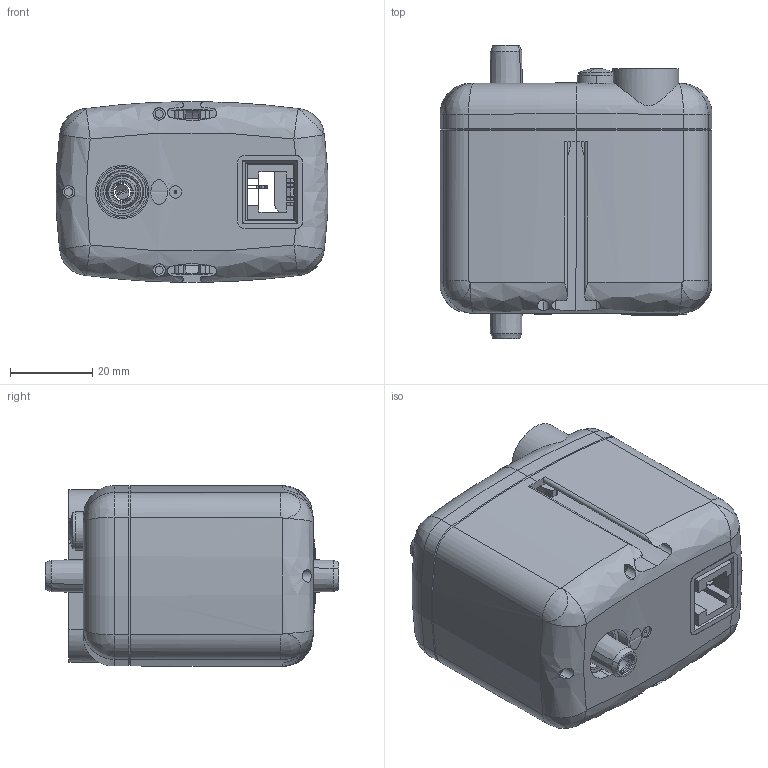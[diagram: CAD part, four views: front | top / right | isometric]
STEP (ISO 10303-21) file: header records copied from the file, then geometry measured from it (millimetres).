
FILE_DESCRIPTION (( 'STEP AP214' ), '1' );
FILE_NAME ('Sauermann_SI30UN23.STEP', '2021-04-08T14:47:30', ( '' ), ( '' ), 'SwSTEP 2.0', 'SolidWorks 2020', '' );
FILE_SCHEMA (( 'AUTOMOTIVE_DESIGN' ));
Length unit declared in the file: millimetre
Products named in the file (1): Sauermann_SI30UN23
Bounding box: 66.18 x 71.4 x 44 mm (x, y, z)
Surface area: 28916 mm2 (no closed solid volume)
Topology: 0 solids, 27 shells, 332 faces, 1488 edges, 1172 vertices
Faces by surface type: plane 144, cylinder 111, cone 32, torus 25, bspline 20
Entity records: 21892 total; most frequent: CARTESIAN_POINT 6250, DIRECTION 2513, ORIENTED_EDGE 2164, EDGE_CURVE 1482, VERTEX_POINT 1172, AXIS2_PLACEMENT_3D 844, LINE 825, VECTOR 825
